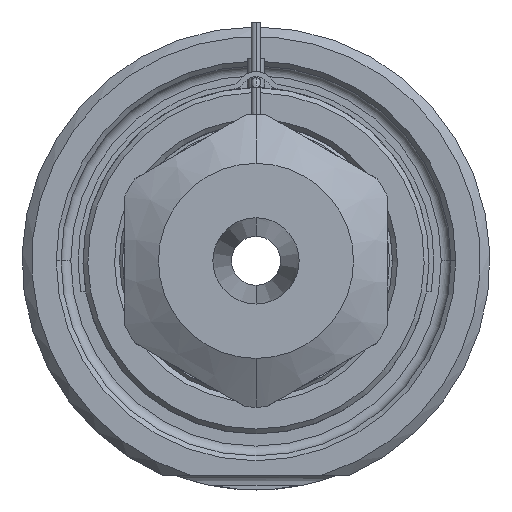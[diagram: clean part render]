
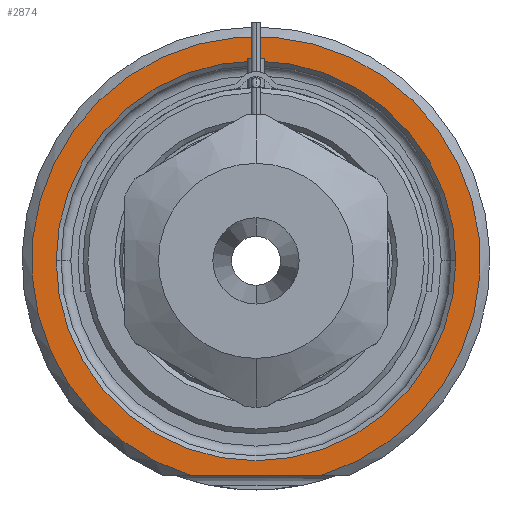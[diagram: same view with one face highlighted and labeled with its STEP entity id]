
A CAD part, front view. The second image highlights one B-rep face of the part: STEP entity #2874.
In plain terms, the highlighted planar face has unit normal (0, -1, 0).
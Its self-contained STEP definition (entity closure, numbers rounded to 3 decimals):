
#1=DIRECTION('',(1.,0.,0.));
#2=VECTOR('',#1,13.416);
#3=CARTESIAN_POINT('',(-6.708,0.,-22.));
#4=LINE('',#3,#2);
#5=CARTESIAN_POINT('',(0.,0.,0.));
#6=DIRECTION('',(0.,1.,0.));
#7=DIRECTION('',(-1.,0.,0.));
#8=AXIS2_PLACEMENT_3D('',#5,#6,#7);
#10=CARTESIAN_POINT('',(0.,0.,0.));
#11=DIRECTION('',(0.,1.,0.));
#12=DIRECTION('',(1.,0.,0.));
#13=AXIS2_PLACEMENT_3D('',#10,#11,#12);
#121=CARTESIAN_POINT('',(0.,0.,0.));
#122=DIRECTION('',(0.,-1.,0.));
#123=DIRECTION('',(0.292,0.,-0.957));
#124=AXIS2_PLACEMENT_3D('',#121,#122,#123);
#2391=CARTESIAN_POINT('',(-20.5,0.,0.));
#2392=CARTESIAN_POINT('',(20.5,0.,0.));
#2393=VERTEX_POINT('',#2391);
#2394=VERTEX_POINT('',#2392);
#2431=CARTESIAN_POINT('',(-6.708,0.,-22.));
#2432=CARTESIAN_POINT('',(6.708,0.,-22.));
#2433=VERTEX_POINT('',#2431);
#2434=VERTEX_POINT('',#2432);
#2857=CARTESIAN_POINT('',(0.,0.,0.));
#2858=DIRECTION('',(0.,-1.,0.));
#2859=DIRECTION('',(1.,0.,0.));
#2860=AXIS2_PLACEMENT_3D('',#2857,#2858,#2859);
#2861=PLANE('',#2860);
#2863=ORIENTED_EDGE('',*,*,#2862,.F.);
#2865=ORIENTED_EDGE('',*,*,#2864,.F.);
#2866=EDGE_LOOP('',(#2863,#2865));
#2867=FACE_OUTER_BOUND('',#2866,.F.);
#2869=ORIENTED_EDGE('',*,*,#2868,.F.);
#2871=ORIENTED_EDGE('',*,*,#2870,.F.);
#2872=EDGE_LOOP('',(#2869,#2871));
#2873=FACE_BOUND('',#2872,.F.);
#2874=ADVANCED_FACE('',(#2867,#2873),#2861,.T.);
#9=CIRCLE('',#8,20.5);
#14=CIRCLE('',#13,20.5);
#125=CIRCLE('',#124,23.);
#2862=EDGE_CURVE('',#2433,#2434,#4,.T.);
#2864=EDGE_CURVE('',#2434,#2433,#125,.T.);
#2868=EDGE_CURVE('',#2393,#2394,#9,.T.);
#2870=EDGE_CURVE('',#2394,#2393,#14,.T.);
